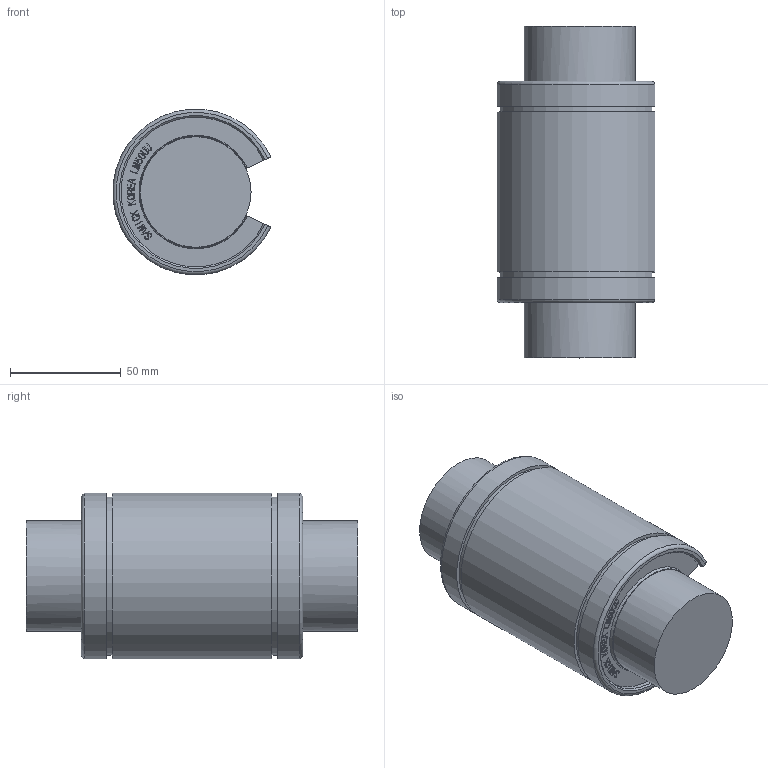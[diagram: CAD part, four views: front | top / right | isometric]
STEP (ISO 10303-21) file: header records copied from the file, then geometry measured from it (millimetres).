
FILE_DESCRIPTION(/* description */ (''),/* implementation_level */ '2;1');
FILE_NAME(/* name */ 'W:\(01) 2024년 홈페이지 CAD파일 최신화\LME_OP\IPT\LME50UUOP.stp',/* time_stamp */ '2025-01-25T10:18:34+09:00',/* author */ ('서우현'),/* organization */ (''),/* preprocessor_version */ 'ST-DEVELOPER v17.2',/* originating_system */ 'Autodesk Inventor 2019',/* authorisation */ '');
FILE_SCHEMA (('AUTOMOTIVE_DESIGN { 1 0 10303 214 3 1 1 }'));
Length unit declared in the file: millimetre
Products named in the file (1): LM5
Bounding box: 71.34 x 150 x 74.71 mm (x, y, z)
Volume: 496622.1 mm3; surface area: 43309.7 mm2
Topology: 1 solids, 1 shells, 842 faces, 2388 edges, 1592 vertices
Faces by surface type: bspline 600, plane 228, cylinder 8, cone 4, torus 2
Full cylindrical faces by diameter (mm): 50 x1
Entity records: 28818 total; most frequent: CARTESIAN_POINT 10223, ORIENTED_EDGE 4776, EDGE_CURVE 2388, DIRECTION 1706, VERTEX_POINT 1592, B_SPLINE_CURVE_WITH_KNOTS 1200, LINE 1156, VECTOR 1156
